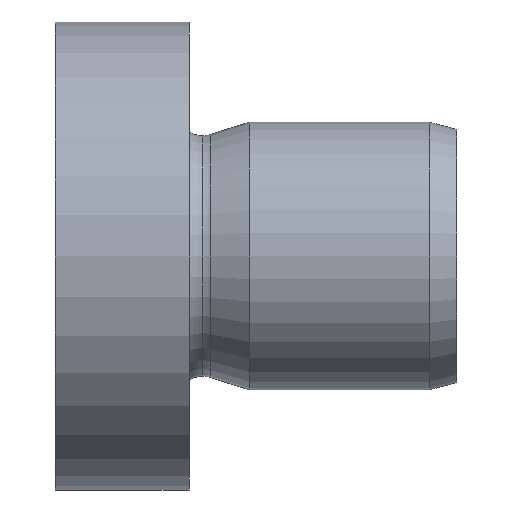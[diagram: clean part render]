
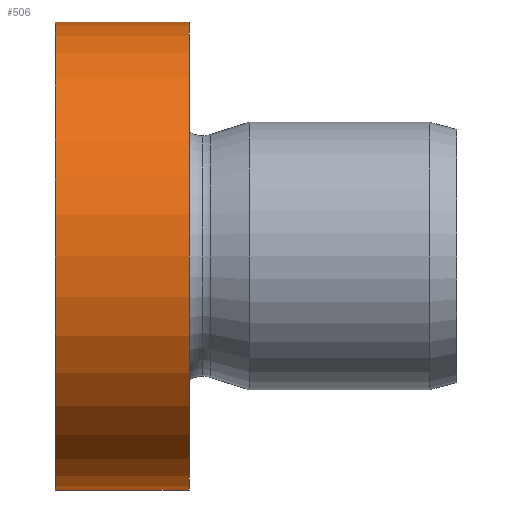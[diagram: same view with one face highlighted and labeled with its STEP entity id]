
A CAD part, left-side view. The second image highlights one B-rep face of the part: STEP entity #506.
In plain terms, the highlighted cylindrical face has radius 3.5 mm (diameter 7 mm), a partial arc.
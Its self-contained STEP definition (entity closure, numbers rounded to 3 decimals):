
#51 = DIRECTION ( 'NONE',  ( 0., -1., 0. ) ) ;
#57 = AXIS2_PLACEMENT_3D ( 'NONE', #163, #246, #207 ) ;
#62 = VERTEX_POINT ( 'NONE', #222 ) ;
#124 = VERTEX_POINT ( 'NONE', #489 ) ;
#159 = CARTESIAN_POINT ( 'NONE',  ( 0., 4., -3.5 ) ) ;
#161 = EDGE_CURVE ( 'NONE', #422, #124, #630, .T. ) ;
#163 = CARTESIAN_POINT ( 'NONE',  ( 0., 0., 0. ) ) ;
#174 = DIRECTION ( 'NONE',  ( 0., 0., -1. ) ) ;
#175 = LINE ( 'NONE', #371, #470 ) ;
#179 = VECTOR ( 'NONE', #51, 1000. ) ;
#204 = CARTESIAN_POINT ( 'NONE',  ( 0., 6., 0. ) ) ;
#207 = DIRECTION ( 'NONE',  ( 0., 0., -1. ) ) ;
#222 = CARTESIAN_POINT ( 'NONE',  ( 0., 4., 3.5 ) ) ;
#223 = DIRECTION ( 'NONE',  ( 0., -1., 0. ) ) ;
#246 = DIRECTION ( 'NONE',  ( 0., -1., 0. ) ) ;
#253 = CIRCLE ( 'NONE', #438, 3.5 ) ;
#258 = ORIENTED_EDGE ( 'NONE', *, *, #161, .T. ) ;
#288 = DIRECTION ( 'NONE',  ( 0., 0., -1. ) ) ;
#290 = EDGE_CURVE ( 'NONE', #422, #62, #175, .T. ) ;
#330 = EDGE_LOOP ( 'NONE', ( #621, #258, #627, #533 ) ) ;
#343 = CARTESIAN_POINT ( 'NONE',  ( 0., 6., 3.5 ) ) ;
#371 = CARTESIAN_POINT ( 'NONE',  ( 0., 0., 3.5 ) ) ;
#421 = CARTESIAN_POINT ( 'NONE',  ( 0., 4., 0. ) ) ;
#422 = VERTEX_POINT ( 'NONE', #343 ) ;
#438 = AXIS2_PLACEMENT_3D ( 'NONE', #421, #223, #174 ) ;
#455 = CYLINDRICAL_SURFACE ( 'NONE', #57, 3.5 ) ;
#464 = EDGE_CURVE ( 'NONE', #124, #522, #503, .T. ) ;
#470 = VECTOR ( 'NONE', #555, 1000. ) ;
#489 = CARTESIAN_POINT ( 'NONE',  ( 0., 6., -3.5 ) ) ;
#497 = FACE_OUTER_BOUND ( 'NONE', #330, .T. ) ;
#503 = LINE ( 'NONE', #615, #179 ) ;
#506 = ADVANCED_FACE ( 'NONE', ( #497 ), #455, .T. ) ;
#522 = VERTEX_POINT ( 'NONE', #159 ) ;
#533 = ORIENTED_EDGE ( 'NONE', *, *, #616, .F. ) ;
#548 = DIRECTION ( 'NONE',  ( 0., -1., 0. ) ) ;
#555 = DIRECTION ( 'NONE',  ( 0., -1., 0. ) ) ;
#584 = AXIS2_PLACEMENT_3D ( 'NONE', #204, #548, #288 ) ;
#615 = CARTESIAN_POINT ( 'NONE',  ( 0., 0., -3.5 ) ) ;
#616 = EDGE_CURVE ( 'NONE', #62, #522, #253, .T. ) ;
#621 = ORIENTED_EDGE ( 'NONE', *, *, #290, .F. ) ;
#627 = ORIENTED_EDGE ( 'NONE', *, *, #464, .T. ) ;
#630 = CIRCLE ( 'NONE', #584, 3.5 ) ;
